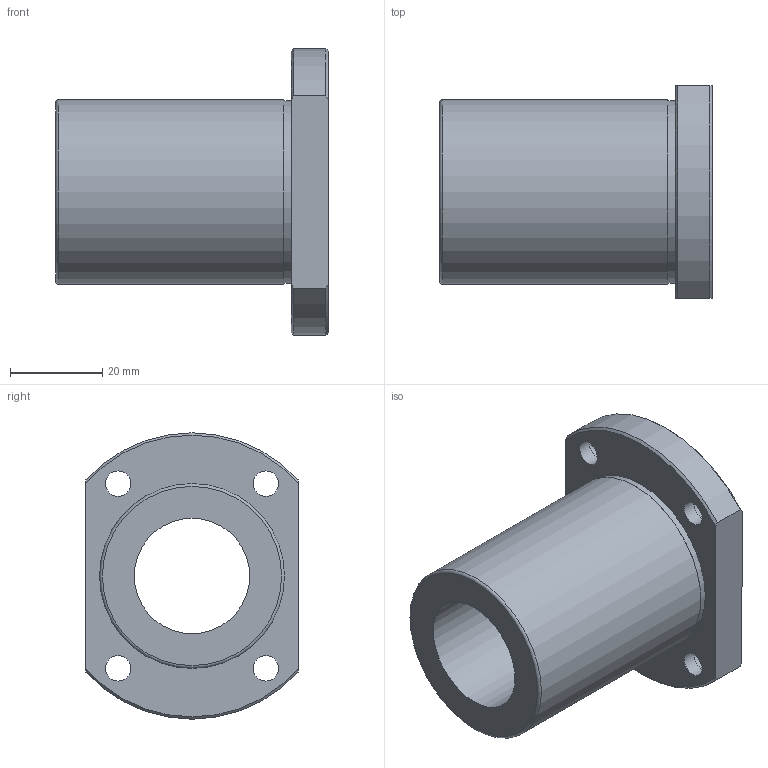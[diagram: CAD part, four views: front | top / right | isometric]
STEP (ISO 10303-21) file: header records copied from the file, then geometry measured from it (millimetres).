
FILE_DESCRIPTION(('STEP AP203'),'1');
FILE_NAME('//192.168.1.1/share/s-4 技術開発/s-4-4_CAD/s-4-4-3_見直し済み/002 修正済み/NFEO-V/NFEO-25VUU.step','2022-03-07T03:06:13',(' '),(' '),'Spatial InterOp 3D',' ',' ');
FILE_SCHEMA(('CONFIG_CONTROL_DESIGN'));
Length unit declared in the file: millimetre
Products named in the file (1): 1
Bounding box: 59 x 46 x 62 mm (x, y, z)
Volume: 53970.3 mm3; surface area: 17233.4 mm2
Topology: 1 solids, 1 shells, 28 faces, 59 edges, 39 vertices
Faces by surface type: cylinder 13, plane 10, cone 4, torus 1
Full cylindrical faces by diameter (mm): 5.5 x4, 9 x4, 25 x1, 39.5 x1, 40 x1
Entity records: 778 total; most frequent: CARTESIAN_POINT 139, DIRECTION 128, ORIENTED_EDGE 94, AXIS2_PLACEMENT_3D 60, EDGE_LOOP 56, EDGE_CURVE 47, FACE_OUTER_BOUND 40, VERTEX_POINT 39
